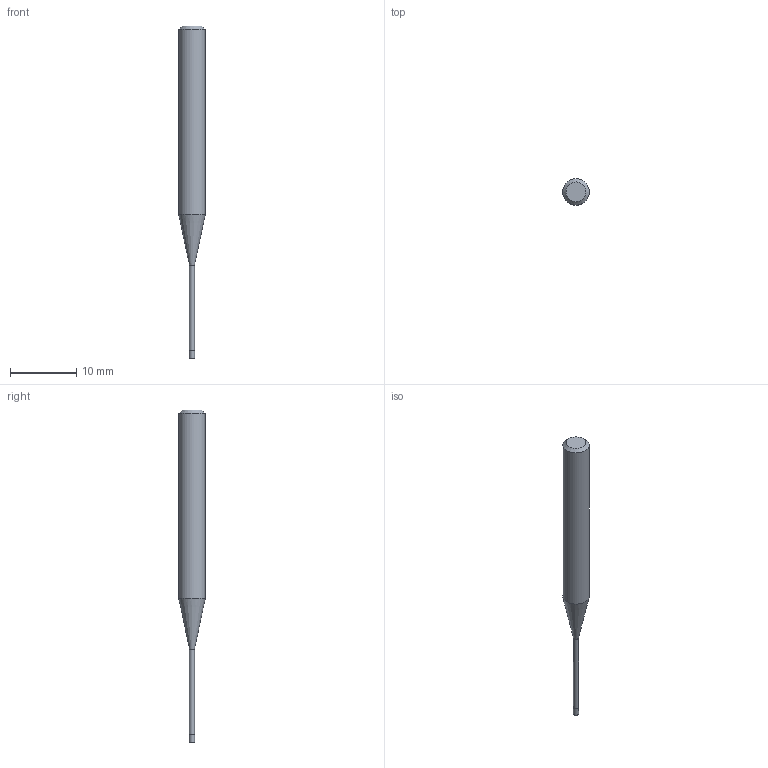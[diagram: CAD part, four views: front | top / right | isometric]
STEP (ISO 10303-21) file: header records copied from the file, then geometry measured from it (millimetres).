
FILE_DESCRIPTION((''),'2;1');
FILE_NAME('C:\Users\nsx150\AppData\Local\Temp\Mastercam 2021\17T8Q8S9EB\TEMP.step','2021-04-21T14:25:24',(''),(''),'STEP Write','Mastercam 2021 ... CNC Software, Inc.','');
FILE_SCHEMA(('AUTOMOTIVE_DESIGN'));
Length unit declared in the file: millimetre
Products named in the file (1): None
Bounding box: 4 x 4 x 50 mm (x, y, z)
Volume: 400.7 mm3; surface area: 458.5 mm2
Topology: 2 solids, 2 shells, 9 faces, 12 edges, 7 vertices
Faces by surface type: plane 4, cylinder 3, cone 2
Full cylindrical faces by diameter (mm): 0.76 x1, 0.8 x1, 4 x1
Entity records: 211 total; most frequent: DIRECTION 36, CARTESIAN_POINT 25, AXIS2_PLACEMENT_3D 18, ORIENTED_EDGE 14, EDGE_LOOP 14, STYLED_ITEM 12, ADVANCED_FACE 9, FACE_BOUND 8
